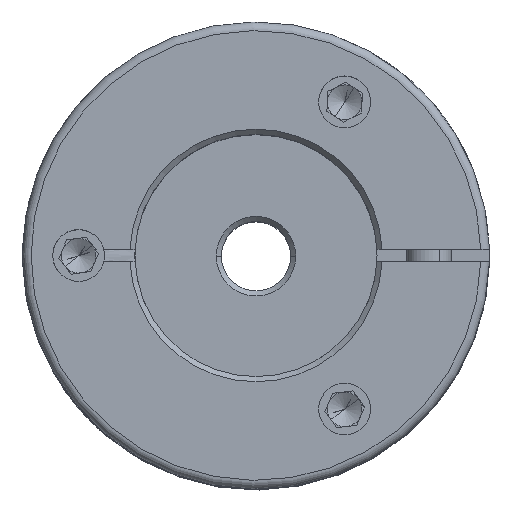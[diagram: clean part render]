
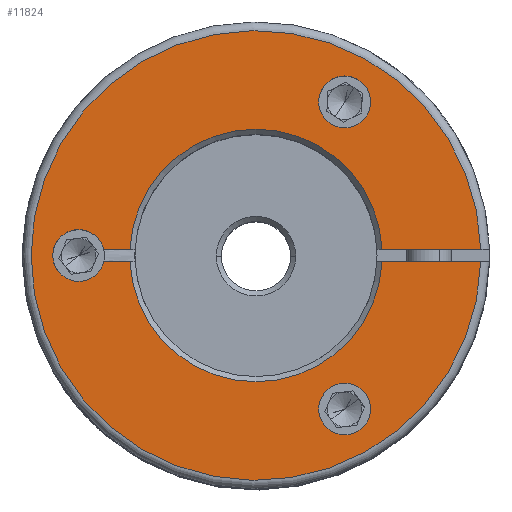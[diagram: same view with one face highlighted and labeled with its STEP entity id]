
A CAD part, top view. The second image highlights one B-rep face of the part: STEP entity #11824.
In plain terms, the highlighted planar face has unit normal (0, 0, 1).
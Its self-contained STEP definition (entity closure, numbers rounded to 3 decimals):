
#11 = CARTESIAN_POINT ( 'NONE',  ( 3.625, -8.877, 5.5 ) ) ;
#181 = VERTEX_POINT ( 'NONE', #2929 ) ;
#187 = CIRCLE ( 'NONE', #3006, 13. ) ;
#273 = FACE_BOUND ( 'NONE', #2566, .T. ) ;
#282 = CIRCLE ( 'NONE', #5130, 1.5 ) ;
#342 = CARTESIAN_POINT ( 'NONE',  ( 3.625, 8.877, 5.5 ) ) ;
#414 = AXIS2_PLACEMENT_3D ( 'NONE', #8946, #7135, #10848 ) ;
#585 = DIRECTION ( 'NONE',  ( -1., 0., 0. ) ) ;
#695 = VERTEX_POINT ( 'NONE', #4341 ) ;
#741 = VERTEX_POINT ( 'NONE', #5409 ) ;
#983 = DIRECTION ( 'NONE',  ( -1., 0., 0. ) ) ;
#1048 = ORIENTED_EDGE ( 'NONE', *, *, #2730, .F. ) ;
#1177 = VERTEX_POINT ( 'NONE', #342 ) ;
#1352 = EDGE_CURVE ( 'NONE', #7785, #9971, #2609, .T. ) ;
#1457 = VERTEX_POINT ( 'NONE', #2670 ) ;
#1602 = CARTESIAN_POINT ( 'NONE',  ( 0., 0.35, 5.5 ) ) ;
#1640 = CIRCLE ( 'NONE', #8657, 7.3 ) ;
#1662 = CIRCLE ( 'NONE', #10486, 7.3 ) ;
#1851 = ORIENTED_EDGE ( 'NONE', *, *, #1352, .F. ) ;
#1888 = DIRECTION ( 'NONE',  ( -1., 0., 0. ) ) ;
#2025 = CIRCLE ( 'NONE', #8838, 1.5 ) ;
#2060 = DIRECTION ( 'NONE',  ( 1., 0., 0. ) ) ;
#2219 = EDGE_CURVE ( 'NONE', #2893, #9971, #1662, .T. ) ;
#2345 = CARTESIAN_POINT ( 'NONE',  ( 6.625, 8.877, 5.5 ) ) ;
#2428 = DIRECTION ( 'NONE',  ( 1., 0., 0. ) ) ;
#2468 = VERTEX_POINT ( 'NONE', #11316 ) ;
#2523 = ORIENTED_EDGE ( 'NONE', *, *, #2219, .T. ) ;
#2529 = AXIS2_PLACEMENT_3D ( 'NONE', #8388, #9031, #6193 ) ;
#2566 = EDGE_LOOP ( 'NONE', ( #10459, #1048 ) ) ;
#2607 = EDGE_CURVE ( 'NONE', #6465, #9386, #3905, .T. ) ;
#2609 = LINE ( 'NONE', #1602, #8898 ) ;
#2665 = ORIENTED_EDGE ( 'NONE', *, *, #10101, .F. ) ;
#2670 = CARTESIAN_POINT ( 'NONE',  ( 12.995, -0.35, 5.5 ) ) ;
#2730 = EDGE_CURVE ( 'NONE', #1177, #3597, #282, .T. ) ;
#2769 = ORIENTED_EDGE ( 'NONE', *, *, #2607, .F. ) ;
#2790 = DIRECTION ( 'NONE',  ( 1., 0., 0. ) ) ;
#2893 = VERTEX_POINT ( 'NONE', #7018 ) ;
#2929 = CARTESIAN_POINT ( 'NONE',  ( 7.292, -0.35, 5.5 ) ) ;
#3006 = AXIS2_PLACEMENT_3D ( 'NONE', #10306, #5540, #7381 ) ;
#3300 = FACE_OUTER_BOUND ( 'NONE', #5390, .T. ) ;
#3364 = FACE_BOUND ( 'NONE', #12312, .T. ) ;
#3595 = ORIENTED_EDGE ( 'NONE', *, *, #11111, .F. ) ;
#3597 = VERTEX_POINT ( 'NONE', #2345 ) ;
#3905 = CIRCLE ( 'NONE', #2529, 1.5 ) ;
#4217 = CARTESIAN_POINT ( 'NONE',  ( 0., 0., 5.5 ) ) ;
#4294 = EDGE_CURVE ( 'NONE', #695, #741, #8957, .T. ) ;
#4322 = DIRECTION ( 'NONE',  ( 1., 0., 0. ) ) ;
#4341 = CARTESIAN_POINT ( 'NONE',  ( -8.791, 0.35, 5.5 ) ) ;
#4936 = CARTESIAN_POINT ( 'NONE',  ( 0., -0.35, 5.5 ) ) ;
#5008 = CARTESIAN_POINT ( 'NONE',  ( -7.292, -0.35, 5.5 ) ) ;
#5130 = AXIS2_PLACEMENT_3D ( 'NONE', #7974, #9316, #4322 ) ;
#5390 = EDGE_LOOP ( 'NONE', ( #10819, #11558, #8437, #11509, #3595, #10657, #11258, #2523, #1851 ) ) ;
#5409 = CARTESIAN_POINT ( 'NONE',  ( -11.75, 0., 5.5 ) ) ;
#5428 = EDGE_CURVE ( 'NONE', #2893, #695, #10398, .T. ) ;
#5540 = DIRECTION ( 'NONE',  ( 0., 0., 1. ) ) ;
#5566 = CARTESIAN_POINT ( 'NONE',  ( -10.25, 0., 5.5 ) ) ;
#5574 = CARTESIAN_POINT ( 'NONE',  ( 0., 0.35, 5.5 ) ) ;
#5636 = DIRECTION ( 'NONE',  ( 0., 0., 1. ) ) ;
#5807 = DIRECTION ( 'NONE',  ( 0., 0., 1. ) ) ;
#6150 = DIRECTION ( 'NONE',  ( 1., 0., 0. ) ) ;
#6193 = DIRECTION ( 'NONE',  ( 1., 0., 0. ) ) ;
#6296 = PLANE ( 'NONE',  #414 ) ;
#6465 = VERTEX_POINT ( 'NONE', #7287 ) ;
#6579 = CARTESIAN_POINT ( 'NONE',  ( 5.125, -8.877, 5.5 ) ) ;
#6780 = VERTEX_POINT ( 'NONE', #5008 ) ;
#7018 = CARTESIAN_POINT ( 'NONE',  ( -7.292, 0.35, 5.5 ) ) ;
#7052 = DIRECTION ( 'NONE',  ( 0., 0., -1. ) ) ;
#7135 = DIRECTION ( 'NONE',  ( 0., 0., 1. ) ) ;
#7287 = CARTESIAN_POINT ( 'NONE',  ( 6.625, -8.877, 5.5 ) ) ;
#7381 = DIRECTION ( 'NONE',  ( 1., 0., 0. ) ) ;
#7701 = DIRECTION ( 'NONE',  ( -1., 0., 0. ) ) ;
#7785 = VERTEX_POINT ( 'NONE', #9458 ) ;
#7835 = AXIS2_PLACEMENT_3D ( 'NONE', #9645, #10667, #2060 ) ;
#7958 = AXIS2_PLACEMENT_3D ( 'NONE', #5566, #5807, #2790 ) ;
#7968 = DIRECTION ( 'NONE',  ( 0., 0., -1. ) ) ;
#7974 = CARTESIAN_POINT ( 'NONE',  ( 5.125, 8.877, 5.5 ) ) ;
#8121 = EDGE_CURVE ( 'NONE', #181, #6780, #1640, .T. ) ;
#8299 = AXIS2_PLACEMENT_3D ( 'NONE', #6579, #5636, #10400 ) ;
#8372 = EDGE_CURVE ( 'NONE', #1457, #181, #9822, .T. ) ;
#8388 = CARTESIAN_POINT ( 'NONE',  ( 5.125, -8.877, 5.5 ) ) ;
#8437 = ORIENTED_EDGE ( 'NONE', *, *, #8121, .T. ) ;
#8609 = VECTOR ( 'NONE', #1888, 1000. ) ;
#8657 = AXIS2_PLACEMENT_3D ( 'NONE', #8905, #7968, #11819 ) ;
#8669 = CARTESIAN_POINT ( 'NONE',  ( 0., -0.35, 5.5 ) ) ;
#8734 = LINE ( 'NONE', #8669, #8609 ) ;
#8838 = AXIS2_PLACEMENT_3D ( 'NONE', #10926, #10014, #2428 ) ;
#8898 = VECTOR ( 'NONE', #585, 1000. ) ;
#8905 = CARTESIAN_POINT ( 'NONE',  ( 0., 0., 5.5 ) ) ;
#8946 = CARTESIAN_POINT ( 'NONE',  ( 0., 0., 5.5 ) ) ;
#8957 = CIRCLE ( 'NONE', #7958, 1.5 ) ;
#9031 = DIRECTION ( 'NONE',  ( 0., 0., 1. ) ) ;
#9194 = VECTOR ( 'NONE', #983, 1000. ) ;
#9257 = VECTOR ( 'NONE', #7701, 1000. ) ;
#9316 = DIRECTION ( 'NONE',  ( 0., 0., 1. ) ) ;
#9386 = VERTEX_POINT ( 'NONE', #11 ) ;
#9458 = CARTESIAN_POINT ( 'NONE',  ( 12.995, 0.35, 5.5 ) ) ;
#9645 = CARTESIAN_POINT ( 'NONE',  ( -10.25, 0., 5.5 ) ) ;
#9822 = LINE ( 'NONE', #4936, #9257 ) ;
#9971 = VERTEX_POINT ( 'NONE', #12078 ) ;
#10014 = DIRECTION ( 'NONE',  ( 0., 0., 1. ) ) ;
#10101 = EDGE_CURVE ( 'NONE', #9386, #6465, #10711, .T. ) ;
#10306 = CARTESIAN_POINT ( 'NONE',  ( 0., 0., 5.5 ) ) ;
#10398 = LINE ( 'NONE', #5574, #9194 ) ;
#10400 = DIRECTION ( 'NONE',  ( 1., 0., 0. ) ) ;
#10429 = EDGE_CURVE ( 'NONE', #7785, #1457, #187, .T. ) ;
#10459 = ORIENTED_EDGE ( 'NONE', *, *, #11328, .F. ) ;
#10486 = AXIS2_PLACEMENT_3D ( 'NONE', #4217, #7052, #6150 ) ;
#10657 = ORIENTED_EDGE ( 'NONE', *, *, #4294, .F. ) ;
#10667 = DIRECTION ( 'NONE',  ( 0., 0., 1. ) ) ;
#10711 = CIRCLE ( 'NONE', #8299, 1.5 ) ;
#10819 = ORIENTED_EDGE ( 'NONE', *, *, #10429, .T. ) ;
#10848 = DIRECTION ( 'NONE',  ( 1., 0., 0. ) ) ;
#10863 = CIRCLE ( 'NONE', #7835, 1.5 ) ;
#10926 = CARTESIAN_POINT ( 'NONE',  ( 5.125, 8.877, 5.5 ) ) ;
#11111 = EDGE_CURVE ( 'NONE', #741, #2468, #10863, .T. ) ;
#11258 = ORIENTED_EDGE ( 'NONE', *, *, #5428, .F. ) ;
#11316 = CARTESIAN_POINT ( 'NONE',  ( -8.791, -0.35, 5.5 ) ) ;
#11328 = EDGE_CURVE ( 'NONE', #3597, #1177, #2025, .T. ) ;
#11509 = ORIENTED_EDGE ( 'NONE', *, *, #12271, .T. ) ;
#11558 = ORIENTED_EDGE ( 'NONE', *, *, #8372, .T. ) ;
#11819 = DIRECTION ( 'NONE',  ( 1., 0., 0. ) ) ;
#11824 = ADVANCED_FACE ( 'NONE', ( #273, #3364, #3300 ), #6296, .T. ) ;
#12078 = CARTESIAN_POINT ( 'NONE',  ( 7.292, 0.35, 5.5 ) ) ;
#12271 = EDGE_CURVE ( 'NONE', #6780, #2468, #8734, .T. ) ;
#12312 = EDGE_LOOP ( 'NONE', ( #2769, #2665 ) ) ;
